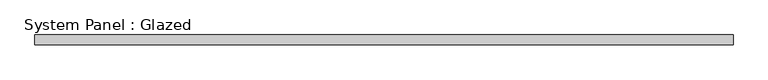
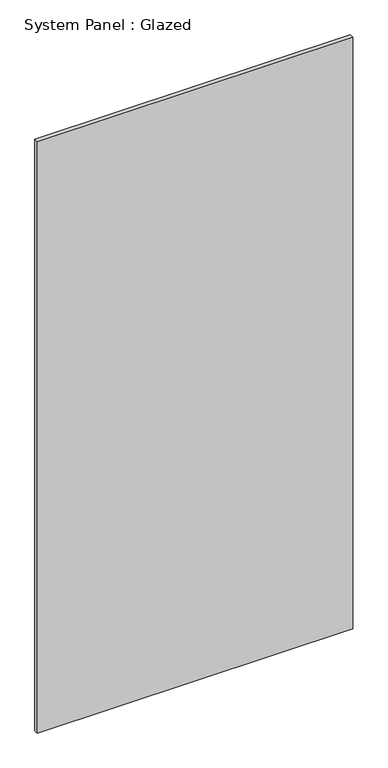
"""IFC4 building model written with IfcOpenShell, lengths in millimetres: plate geometry, System Panel : Glazed."""

from ifc_helpers import new_model, si_unit, origin, origin_with_axes, place, context, project, spatial, polyline, outline, extrude, source, transform, mapped, element, save


def system_panel_glazed_e74b10a4(model_context):
    return source(origin(), model_context, "Body", "SweptSolid", [
        extrude(outline(polyline([(898.525, 19.05), (-898.525, 19.05), (-898.525, 44.45), (898.525, 44.45), (898.525, 19.05)])), origin_with_axes(), (0.0, 0.0, 1.0), 3562.35),
    ])


if __name__ == "__main__":
    model = new_model("IFC4")
    model_context = context("Model", 3, world=origin())
    ifc_project = project(units=[si_unit("LENGTHUNIT", "METRE", prefix="MILLI")], contexts=[model_context])
    site = spatial("IfcSite", under=ifc_project)
    building = spatial("IfcBuilding", under=site)
    placement = place(None, origin())
    system_panel_glazed_shape = system_panel_glazed_e74b10a4(model_context)
    element("IfcPlate", 1, ObjectType="System Panel : Glazed", at=placement, inside=building, context=model_context, shape_type="MappedRepresentation", body=[
        mapped(system_panel_glazed_shape, transform((0.0, 0.0, 0.0), x_axis=(1.0, 0.0, 0.0), y_axis=(0.0, 1.0, 0.0), z_axis=(0.0, 0.0, 1.0))),
    ])
    save(model, "model.ifc")
